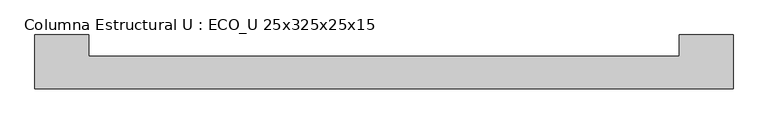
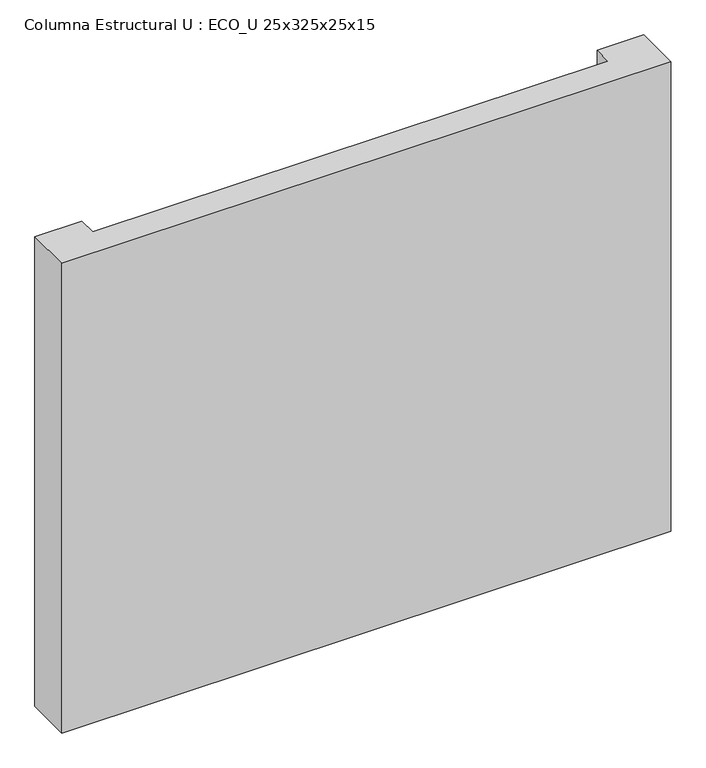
"""IFC4 building model written with IfcOpenShell, lengths in millimetres: column geometry, Columna Estructural U : ECO_U 25x325x25x15."""

from ifc_helpers import new_model, si_unit, frame, origin, place, context, project, spatial, polyline, outline, extrude, source, transform, mapped, element, save


def columna_estructural_u_eco_u_25x325x25x15_ae069314(model_context):
    return source(origin(), model_context, "Body", "SweptSolid", [
        extrude(outline(polyline([(1375.0, 75.0), (1375.0, 175.0), (1625.0, 175.0), (1625.0, -75.0), (-1625.0, -75.0), (-1625.0, 175.0), (-1375.0, 175.0), (-1375.0, 75.0), (1375.0, 75.0)])), frame((0.0, 0.0, 13350.0), z_axis=(0.0, 0.0, 1.0), x_axis=(1.0, 0.0, 0.0)), (0.0, 0.0, 1.0), 2650.0),
    ])


if __name__ == "__main__":
    model = new_model("IFC4")
    model_context = context("Model", 3, world=origin())
    ifc_project = project(units=[si_unit("LENGTHUNIT", "METRE", prefix="MILLI")], contexts=[model_context])
    site = spatial("IfcSite", under=ifc_project)
    building = spatial("IfcBuilding", under=site)
    placement = place(None, origin())
    columna_estructural_u_eco_u_25x325x25x15_shape = columna_estructural_u_eco_u_25x325x25x15_ae069314(model_context)
    element("IfcColumn", 1, ObjectType="Columna Estructural U : ECO_U 25x325x25x15", at=placement, inside=building, context=model_context, shape_type="MappedRepresentation", body=[
        mapped(columna_estructural_u_eco_u_25x325x25x15_shape, transform((0.0, 0.0, 0.0), x_axis=(1.0, 0.0, 0.0), y_axis=(0.0, 1.0, 0.0), z_axis=(0.0, 0.0, 1.0))),
    ])
    save(model, "model.ifc")
